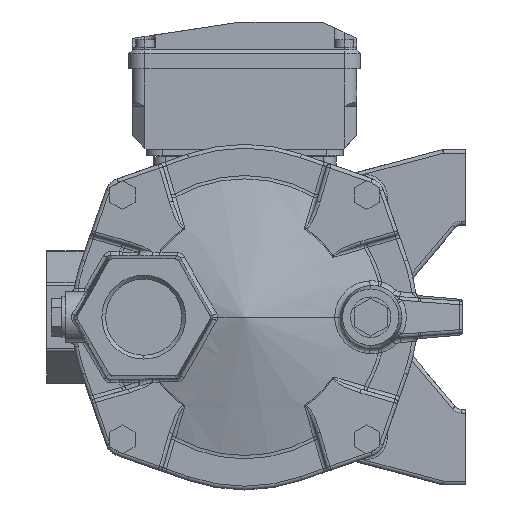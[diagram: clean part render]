
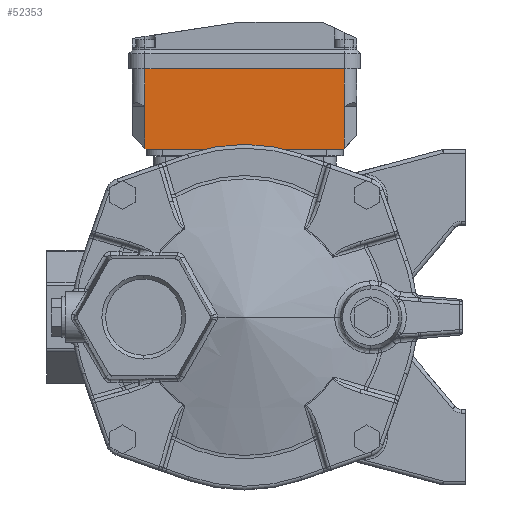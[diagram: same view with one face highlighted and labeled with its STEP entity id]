
A CAD part, left-side view. The second image highlights one B-rep face of the part: STEP entity #52353.
In plain terms, the highlighted planar face has unit normal (-1, 0, 0).
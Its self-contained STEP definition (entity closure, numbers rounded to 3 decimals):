
#48104=DIRECTION('',(0.,-1.,0.));
#48105=VECTOR('',#48104,78.);
#48106=CARTESIAN_POINT('',(-45.5,39.,0.));
#48107=LINE('',#48106,#48105);
#49277=DIRECTION('',(0.,-1.,0.));
#49278=VECTOR('',#49277,79.);
#49279=CARTESIAN_POINT('',(-45.5,39.5,-32.));
#49280=LINE('',#49279,#49278);
#49284=DIRECTION('',(0.,0.,-1.));
#49285=VECTOR('',#49284,15.);
#49286=CARTESIAN_POINT('',(-45.5,39.5,-17.));
#49287=LINE('',#49286,#49285);
#49291=DIRECTION('',(0.,0.,-1.));
#49292=VECTOR('',#49291,16.5);
#49293=CARTESIAN_POINT('',(-45.5,39.5,-0.5));
#49294=LINE('',#49293,#49292);
#49298=DIRECTION('',(0.,0.707,-0.707));
#49299=VECTOR('',#49298,0.707);
#49300=CARTESIAN_POINT('',(-45.5,39.,0.));
#49301=LINE('',#49300,#49299);
#49305=DIRECTION('',(0.,0.707,0.707));
#49306=VECTOR('',#49305,0.707);
#49307=CARTESIAN_POINT('',(-45.5,-39.5,-0.5));
#49308=LINE('',#49307,#49306);
#49312=DIRECTION('',(0.,0.,-1.));
#49313=VECTOR('',#49312,16.5);
#49314=CARTESIAN_POINT('',(-45.5,-39.5,-0.5));
#49315=LINE('',#49314,#49313);
#49319=DIRECTION('',(0.,0.,-1.));
#49320=VECTOR('',#49319,15.);
#49321=CARTESIAN_POINT('',(-45.5,-39.5,-17.));
#49322=LINE('',#49321,#49320);
#50793=CARTESIAN_POINT('',(-45.5,-39.,0.));
#50795=VERTEX_POINT('',#50793);
#50797=CARTESIAN_POINT('',(-45.5,39.,0.));
#50798=VERTEX_POINT('',#50797);
#50817=CARTESIAN_POINT('',(-45.5,39.5,-32.));
#50818=CARTESIAN_POINT('',(-45.5,-39.5,-32.));
#50819=VERTEX_POINT('',#50817);
#50820=VERTEX_POINT('',#50818);
#50985=CARTESIAN_POINT('',(-45.5,39.5,-17.));
#50987=VERTEX_POINT('',#50985);
#50989=CARTESIAN_POINT('',(-45.5,39.5,-0.5));
#50990=VERTEX_POINT('',#50989);
#50997=CARTESIAN_POINT('',(-45.5,-39.5,-17.));
#50999=VERTEX_POINT('',#50997);
#51005=CARTESIAN_POINT('',(-45.5,-39.5,-0.5));
#51006=VERTEX_POINT('',#51005);
#52335=CARTESIAN_POINT('',(-45.5,44.5,0.));
#52336=DIRECTION('',(-1.,0.,0.));
#52337=DIRECTION('',(0.,-1.,0.));
#52338=AXIS2_PLACEMENT_3D('',#52335,#52336,#52337);
#52339=PLANE('',#52338);
#52340=ORIENTED_EDGE('',*,*,#51483,.F.);
#52341=ORIENTED_EDGE('',*,*,#51455,.F.);
#52342=ORIENTED_EDGE('',*,*,#51429,.F.);
#52343=ORIENTED_EDGE('',*,*,#51414,.F.);
#52344=ORIENTED_EDGE('',*,*,#51294,.T.);
#52346=ORIENTED_EDGE('',*,*,#52345,.F.);
#52348=ORIENTED_EDGE('',*,*,#52347,.T.);
#52350=ORIENTED_EDGE('',*,*,#52349,.T.);
#52351=EDGE_LOOP('',(#52340,#52341,#52342,#52343,#52344,#52346,#52348,#52350));
#52352=FACE_OUTER_BOUND('',#52351,.F.);
#51294=EDGE_CURVE('',#50798,#50795,#48107,.T.);
#51414=EDGE_CURVE('',#50798,#50990,#49301,.T.);
#51429=EDGE_CURVE('',#50990,#50987,#49294,.T.);
#51455=EDGE_CURVE('',#50987,#50819,#49287,.T.);
#51483=EDGE_CURVE('',#50819,#50820,#49280,.T.);
#52345=EDGE_CURVE('',#51006,#50795,#49308,.T.);
#52347=EDGE_CURVE('',#51006,#50999,#49315,.T.);
#52349=EDGE_CURVE('',#50999,#50820,#49322,.T.);
#52353=ADVANCED_FACE('',(#52352),#52339,.T.);
